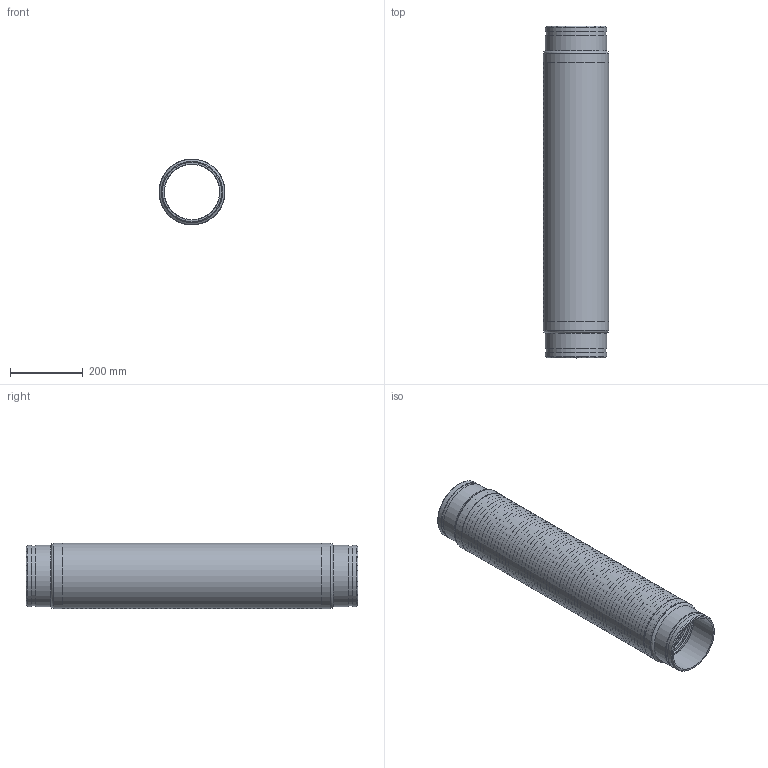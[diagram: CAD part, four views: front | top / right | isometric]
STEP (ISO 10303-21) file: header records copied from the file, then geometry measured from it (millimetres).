
FILE_DESCRIPTION((''),'2;1');
FILE_NAME('C:\2012_Work\Designs\GWN\GWN-6x36.stp','2013-08-13T13:29:05',('KShiels'),(''),'Autodesk Inventor 2012','Autodesk Inventor 2012','');
FILE_SCHEMA(('AUTOMOTIVE_DESIGN { 1 0 10303 214 1 1 1 1 }'));
Length unit declared in the file: inch
Products named in the file (6): GWN-6x36; GWN-6x36_Welds; A-30114-4_6in_GN-BRAID; A-30114-4_6in_GN-BELLOWS; A-30114-4_6in_GN-BRAID-COLLAR; A-30114-4_6in_GN-GROOVED_NIPPLE
Assembly tree (7 placements, depth 2):
  GWN-6x36
    GWN-6x36_Welds
    A-30114-4_6in_GN-BRAID
    A-30114-4_6in_GN-BELLOWS
    A-30114-4_6in_GN-BRAID-COLLAR  x2
    A-30114-4_6in_GN-GROOVED_NIPPLE  x2
Bounding box: 181.45 x 914.4 x 181.45 mm (x, y, z)
Volume: 1301052.8 mm3; surface area: 3245210.1 mm2
Topology: 8 solids, 8 shells, 536 faces, 812 edges, 542 vertices
Faces by surface type: plane 266, torus 250, cylinder 16, bspline 2, cone 2
Full cylindrical faces by diameter (mm): 154.051 x2, 163.957 x2, 168.275 x6, 179.07 x3, 180.086 x1, 181.451 x2
Entity records: 11251 total; most frequent: CARTESIAN_POINT 2132, DIRECTION 2106, ORIENTED_EDGE 1058, AXIS2_PLACEMENT_3D 1053, EDGE_LOOP 1044, EDGE_CURVE 529, VERTEX_POINT 527, FACE_OUTER_BOUND 523
